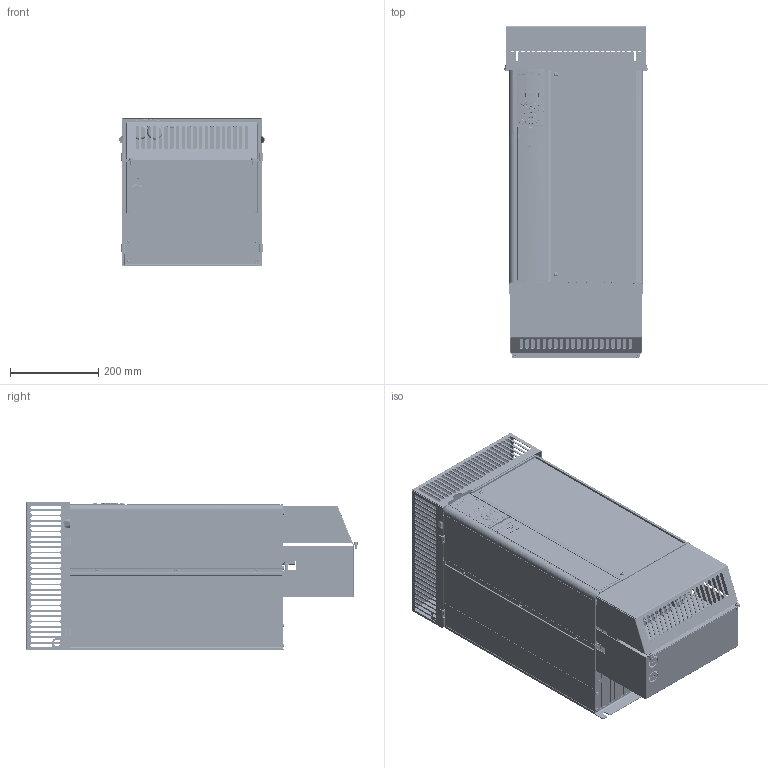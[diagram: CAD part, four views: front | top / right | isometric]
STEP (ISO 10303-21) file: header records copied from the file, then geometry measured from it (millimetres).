
FILE_DESCRIPTION((''),'2;1');
FILE_NAME('DANFOSS-FC300-C3-NEMA1-KIT-196','2008-10-23T',('Abhilash.Paramesh'),('Danfoss Drives A/S'),'PRO/ENGINEER BY PARAMETRIC TECHNOLOGY CORPORATION, 2007160','PRO/ENGINEER BY PARAMETRIC TECHNOLOGY CORPORATION, 2007160','');
FILE_SCHEMA(('CONFIG_CONTROL_DESIGN', 'GEOMETRIC_VALIDATION_PROPERTIES_MIM'));
Products named in the file (1): DANFOSS-FC300-C3-NEMA1-KIT-196
Bounding box: 328.72 x 751.65 x 337 mm (x, y, z)
Volume: 45733409.4 mm3; surface area: 2802871 mm2
Topology: 2 solids, 40 shells, 7551 faces, 20849 edges, 13395 vertices
Faces by surface type: plane 4166, cylinder 2158, bspline 710, extrusion 175, torus 158, cone 102, sphere 82
Entity records: 452758 total; most frequent: CARTESIAN_POINT 156152, ORIENTED_EDGE 41506, DIRECTION 34539, PRESENTATION_STYLE_ASSIGNMENT 25279, STYLED_ITEM 20933, CURVE_STYLE 20927, EDGE_CURVE 20753, VERTEX_POINT 13395
